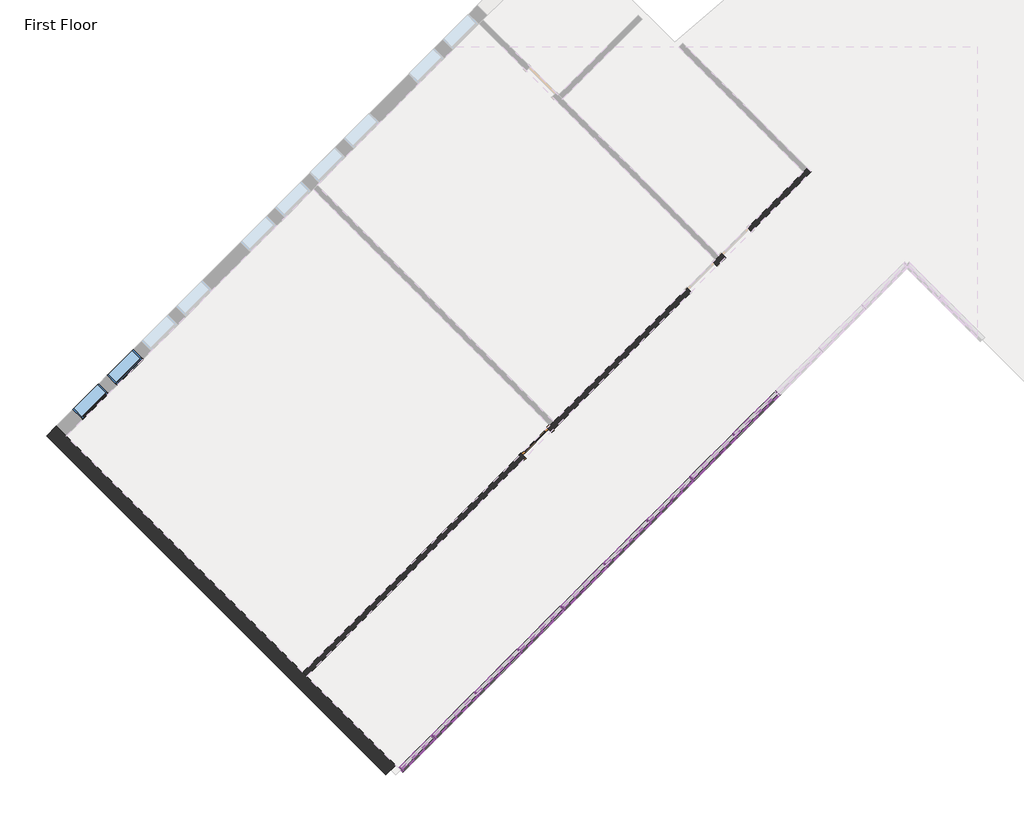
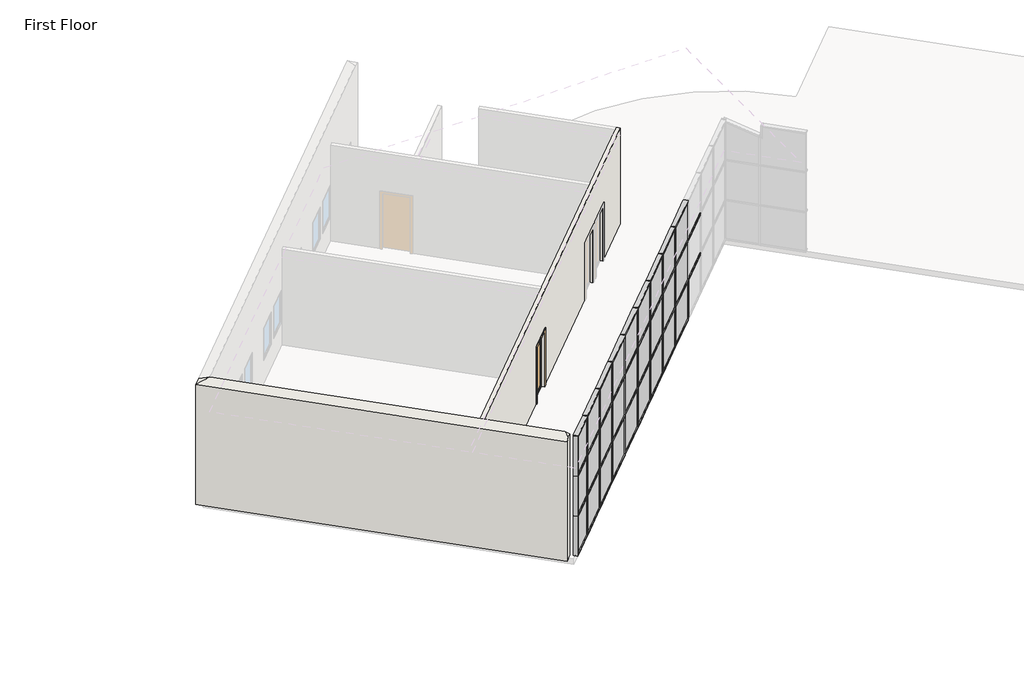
# One storey, part 1 of 4: 66 members, 27 plates, 2 walls, 2 windows, 1 door.
"""IFC4 building model written with IfcOpenShell, lengths in millimetres."""

from ifc_helpers import new_model, si_unit, origin, place, context, project, spatial, faceted_brep, transform, mapped, element, save
from components import m_single_glass_1_0915_x_2134mm_fb3287b7, rectangular_mullion_50_x_150mm_a1635f5b, rectangular_mullion_50_x_150mm_40297ad3, rectangular_mullion_50_x_150mm_f494fff1, rectangular_mullion_50_x_150mm_97ff1a0c, rectangular_mullion_50_x_150mm_5da8f88f, rectangular_mullion_50_x_150mm_6261b450, rectangular_mullion_50_x_150mm_4d330a12, rectangular_mullion_50_x_150mm_c13bad7a, system_panel_glazed_a417ca2b, system_panel_glazed_7c4ff273, system_panel_glazed_0df73d5a, system_panel_glazed_71216330, system_panel_solid_7096e89f, system_panel_solid_df1dc4a9, m_fixed_0915_x_1220mm_bde29121

model = new_model("IFC4")

# Units and contexts
model_context = context("Model", 3, world=origin())
ifc_project = project(units=[si_unit("LENGTHUNIT", "METRE", prefix="MILLI")], contexts=[model_context])

# Site, building, storey
site = spatial("IfcSite", under=ifc_project)
building = spatial("IfcBuilding", under=site)
storey = spatial("IfcBuildingStorey", under=building, Name="First Floor", Elevation=0.0)

# Door
placement = place(None, origin())
m_single_glass_1_0915_x_2134mm_shape = m_single_glass_1_0915_x_2134mm_fb3287b7(model_context)
element("IfcDoor", 1, ObjectType="M_Single-Glass 1 : 0915 x 2134mm", at=placement, inside=storey, context=model_context, shape_type="MappedRepresentation", body=[
    mapped(m_single_glass_1_0915_x_2134mm_shape, transform((-10885.2041795, -2483.8084826, 0.0), x_axis=(0.7071067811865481, 0.7071067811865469, 0.0), y_axis=(-0.7071067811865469, 0.7071067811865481, 0.0), z_axis=(0.0, 0.0, 1.0))),
])

# Members
rectangular_mullion_50_x_150mm_shape = rectangular_mullion_50_x_150mm_a1635f5b(model_context)
element("IfcMember", 2, ObjectType="Rectangular Mullion : 50 x 150mm", at=placement, inside=storey, context=model_context, shape_type="MappedRepresentation", body=[
    mapped(rectangular_mullion_50_x_150mm_shape, transform((-14249.9717978, -10654.0737858, 4571.7250795), x_axis=(0.0, 0.0, 1.0), y_axis=(-0.7071067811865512, 0.7071067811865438, 0.0), z_axis=(-0.7071067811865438, -0.7071067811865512, 0.0))),
])
rectangular_mullion_50_x_150mm_2_shape = rectangular_mullion_50_x_150mm_40297ad3(model_context)
element("IfcMember", 3, ObjectType="Rectangular Mullion : 50 x 150mm", at=placement, inside=storey, context=model_context, shape_type="MappedRepresentation", body=[
    mapped(rectangular_mullion_50_x_150mm_2_shape, transform((-4834.1378995, -1238.2398875, 0.0), x_axis=(-0.7071067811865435, -0.7071067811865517, 0.0), y_axis=(-0.7071067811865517, 0.7071067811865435, 0.0), z_axis=(0.0, 0.0, -1.0))),
])
element("IfcMember", 4, ObjectType="Rectangular Mullion : 50 x 150mm", at=placement, inside=storey, context=model_context, shape_type="MappedRepresentation", body=[
    mapped(rectangular_mullion_50_x_150mm_2_shape, transform((-5911.768634, -2315.870622, 0.0), x_axis=(-0.7071067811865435, -0.7071067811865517, 0.0), y_axis=(-0.7071067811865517, 0.7071067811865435, 0.0), z_axis=(0.0, 0.0, -1.0))),
])
element("IfcMember", 5, ObjectType="Rectangular Mullion : 50 x 150mm", at=placement, inside=storey, context=model_context, shape_type="MappedRepresentation", body=[
    mapped(rectangular_mullion_50_x_150mm_2_shape, transform((-6989.3993686, -3393.5013566, 0.0), x_axis=(-0.7071067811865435, -0.7071067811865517, 0.0), y_axis=(-0.7071067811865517, 0.7071067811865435, 0.0), z_axis=(0.0, 0.0, -1.0))),
])
element("IfcMember", 6, ObjectType="Rectangular Mullion : 50 x 150mm", at=placement, inside=storey, context=model_context, shape_type="MappedRepresentation", body=[
    mapped(rectangular_mullion_50_x_150mm_2_shape, transform((-8067.0301031, -4471.1320911, 0.0), x_axis=(-0.7071067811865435, -0.7071067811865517, 0.0), y_axis=(-0.7071067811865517, 0.7071067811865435, 0.0), z_axis=(0.0, 0.0, -1.0))),
])
element("IfcMember", 7, ObjectType="Rectangular Mullion : 50 x 150mm", at=placement, inside=storey, context=model_context, shape_type="MappedRepresentation", body=[
    mapped(rectangular_mullion_50_x_150mm_2_shape, transform((-9144.6608376, -5548.7628256, 0.0), x_axis=(-0.7071067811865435, -0.7071067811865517, 0.0), y_axis=(-0.7071067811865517, 0.7071067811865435, 0.0), z_axis=(0.0, 0.0, -1.0))),
])
element("IfcMember", 8, ObjectType="Rectangular Mullion : 50 x 150mm", at=placement, inside=storey, context=model_context, shape_type="MappedRepresentation", body=[
    mapped(rectangular_mullion_50_x_150mm_2_shape, transform((-10222.2915721, -6626.3935602, 0.0), x_axis=(-0.7071067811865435, -0.7071067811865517, 0.0), y_axis=(-0.7071067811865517, 0.7071067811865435, 0.0), z_axis=(0.0, 0.0, -1.0))),
])
element("IfcMember", 9, ObjectType="Rectangular Mullion : 50 x 150mm", at=placement, inside=storey, context=model_context, shape_type="MappedRepresentation", body=[
    mapped(rectangular_mullion_50_x_150mm_2_shape, transform((-11299.9223067, -7704.0242947, 0.0), x_axis=(-0.7071067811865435, -0.7071067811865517, 0.0), y_axis=(-0.7071067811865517, 0.7071067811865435, 0.0), z_axis=(0.0, 0.0, -1.0))),
])
element("IfcMember", 10, ObjectType="Rectangular Mullion : 50 x 150mm", at=placement, inside=storey, context=model_context, shape_type="MappedRepresentation", body=[
    mapped(rectangular_mullion_50_x_150mm_2_shape, transform((-12377.5530412, -8781.6550292, 0.0), x_axis=(-0.7071067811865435, -0.7071067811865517, 0.0), y_axis=(-0.7071067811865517, 0.7071067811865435, 0.0), z_axis=(0.0, 0.0, -1.0))),
])
element("IfcMember", 11, ObjectType="Rectangular Mullion : 50 x 150mm", at=placement, inside=storey, context=model_context, shape_type="MappedRepresentation", body=[
    mapped(rectangular_mullion_50_x_150mm_2_shape, transform((-13455.1837757, -9859.2857637, 0.0), x_axis=(-0.7071067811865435, -0.7071067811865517, 0.0), y_axis=(-0.7071067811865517, 0.7071067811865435, 0.0), z_axis=(0.0, 0.0, -1.0))),
])
rectangular_mullion_50_x_150mm_3_shape = rectangular_mullion_50_x_150mm_f494fff1(model_context)
element("IfcMember", 12, ObjectType="Rectangular Mullion : 50 x 150mm", at=placement, inside=storey, context=model_context, shape_type="MappedRepresentation", body=[
    mapped(rectangular_mullion_50_x_150mm_3_shape, transform((-4816.46023, -1220.562218, 1524.0), x_axis=(0.0, 0.0, 1.0), y_axis=(-0.7071067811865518, 0.7071067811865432, 0.0), z_axis=(-0.7071067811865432, -0.7071067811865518, 0.0))),
])
element("IfcMember", 13, ObjectType="Rectangular Mullion : 50 x 150mm", at=placement, inside=storey, context=model_context, shape_type="MappedRepresentation", body=[
    mapped(rectangular_mullion_50_x_150mm_3_shape, transform((-5894.0909645, -2298.1929525, 1524.0), x_axis=(0.0, 0.0, 1.0), y_axis=(-0.7071067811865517, 0.7071067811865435, 0.0), z_axis=(-0.7071067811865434, -0.7071067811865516, 0.0))),
])
element("IfcMember", 14, ObjectType="Rectangular Mullion : 50 x 150mm", at=placement, inside=storey, context=model_context, shape_type="MappedRepresentation", body=[
    mapped(rectangular_mullion_50_x_150mm_3_shape, transform((-6971.721699, -3375.823687, 1524.0), x_axis=(0.0, 0.0, 1.0), y_axis=(-0.7071067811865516, 0.7071067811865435, 0.0), z_axis=(-0.7071067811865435, -0.7071067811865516, 0.0))),
])
element("IfcMember", 15, ObjectType="Rectangular Mullion : 50 x 150mm", at=placement, inside=storey, context=model_context, shape_type="MappedRepresentation", body=[
    mapped(rectangular_mullion_50_x_150mm_3_shape, transform((-8049.3524335, -4453.4544216, 1524.0), x_axis=(0.0, 0.0, 1.0), y_axis=(-0.7071067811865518, 0.7071067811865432, 0.0), z_axis=(-0.7071067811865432, -0.7071067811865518, 0.0))),
])
element("IfcMember", 16, ObjectType="Rectangular Mullion : 50 x 150mm", at=placement, inside=storey, context=model_context, shape_type="MappedRepresentation", body=[
    mapped(rectangular_mullion_50_x_150mm_3_shape, transform((-9126.9831681, -5531.0851561, 1524.0), x_axis=(0.0, 0.0, 1.0), y_axis=(-0.7071067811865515, 0.7071067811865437, 0.0), z_axis=(-0.7071067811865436, -0.7071067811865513, 0.0))),
])
element("IfcMember", 17, ObjectType="Rectangular Mullion : 50 x 150mm", at=placement, inside=storey, context=model_context, shape_type="MappedRepresentation", body=[
    mapped(rectangular_mullion_50_x_150mm_3_shape, transform((-10204.6139026, -6608.7158906, 1524.0), x_axis=(0.0, 0.0, 1.0), y_axis=(-0.7071067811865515, 0.7071067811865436, 0.0), z_axis=(-0.7071067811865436, -0.7071067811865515, 0.0))),
])
element("IfcMember", 18, ObjectType="Rectangular Mullion : 50 x 150mm", at=placement, inside=storey, context=model_context, shape_type="MappedRepresentation", body=[
    mapped(rectangular_mullion_50_x_150mm_3_shape, transform((-11282.2446371, -7686.3466252, 1524.0), x_axis=(0.0, 0.0, 1.0), y_axis=(-0.7071067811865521, 0.7071067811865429, 0.0), z_axis=(-0.7071067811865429, -0.7071067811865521, 0.0))),
])
element("IfcMember", 19, ObjectType="Rectangular Mullion : 50 x 150mm", at=placement, inside=storey, context=model_context, shape_type="MappedRepresentation", body=[
    mapped(rectangular_mullion_50_x_150mm_3_shape, transform((-12359.8753717, -8763.9773597, 1524.0), x_axis=(0.0, 0.0, 1.0), y_axis=(-0.7071067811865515, 0.7071067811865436, 0.0), z_axis=(-0.7071067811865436, -0.7071067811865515, 0.0))),
])
element("IfcMember", 20, ObjectType="Rectangular Mullion : 50 x 150mm", at=placement, inside=storey, context=model_context, shape_type="MappedRepresentation", body=[
    mapped(rectangular_mullion_50_x_150mm_3_shape, transform((-13437.5061062, -9841.6080942, 1524.0), x_axis=(0.0, 0.0, 1.0), y_axis=(-0.7071067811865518, 0.7071067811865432, 0.0), z_axis=(-0.7071067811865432, -0.7071067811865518, 0.0))),
])
element("IfcMember", 21, ObjectType="Rectangular Mullion : 50 x 150mm", at=placement, inside=storey, context=model_context, shape_type="MappedRepresentation", body=[
    mapped(rectangular_mullion_50_x_150mm_3_shape, transform((-4816.46023, -1220.562218, 3048.0), x_axis=(0.0, 0.0, 1.0), y_axis=(-0.7071067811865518, 0.7071067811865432, 0.0), z_axis=(-0.7071067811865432, -0.7071067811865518, 0.0))),
])
element("IfcMember", 22, ObjectType="Rectangular Mullion : 50 x 150mm", at=placement, inside=storey, context=model_context, shape_type="MappedRepresentation", body=[
    mapped(rectangular_mullion_50_x_150mm_3_shape, transform((-5894.0909645, -2298.1929525, 3048.0), x_axis=(0.0, 0.0, 1.0), y_axis=(-0.7071067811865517, 0.7071067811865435, 0.0), z_axis=(-0.7071067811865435, -0.7071067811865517, 0.0))),
])
element("IfcMember", 23, ObjectType="Rectangular Mullion : 50 x 150mm", at=placement, inside=storey, context=model_context, shape_type="MappedRepresentation", body=[
    mapped(rectangular_mullion_50_x_150mm_3_shape, transform((-6971.721699, -3375.823687, 3048.0), x_axis=(0.0, 0.0, 1.0), y_axis=(-0.7071067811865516, 0.7071067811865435, 0.0), z_axis=(-0.7071067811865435, -0.7071067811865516, 0.0))),
])
element("IfcMember", 24, ObjectType="Rectangular Mullion : 50 x 150mm", at=placement, inside=storey, context=model_context, shape_type="MappedRepresentation", body=[
    mapped(rectangular_mullion_50_x_150mm_3_shape, transform((-8049.3524335, -4453.4544216, 3048.0), x_axis=(0.0, 0.0, 1.0), y_axis=(-0.7071067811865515, 0.7071067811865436, 0.0), z_axis=(-0.7071067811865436, -0.7071067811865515, 0.0))),
])
element("IfcMember", 25, ObjectType="Rectangular Mullion : 50 x 150mm", at=placement, inside=storey, context=model_context, shape_type="MappedRepresentation", body=[
    mapped(rectangular_mullion_50_x_150mm_3_shape, transform((-9126.9831681, -5531.0851561, 3048.0), x_axis=(0.0, 0.0, 1.0), y_axis=(-0.7071067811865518, 0.7071067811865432, 0.0), z_axis=(-0.7071067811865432, -0.7071067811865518, 0.0))),
])
element("IfcMember", 26, ObjectType="Rectangular Mullion : 50 x 150mm", at=placement, inside=storey, context=model_context, shape_type="MappedRepresentation", body=[
    mapped(rectangular_mullion_50_x_150mm_3_shape, transform((-10204.6139026, -6608.7158906, 3048.0), x_axis=(0.0, 0.0, 1.0), y_axis=(-0.7071067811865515, 0.7071067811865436, 0.0), z_axis=(-0.7071067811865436, -0.7071067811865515, 0.0))),
])
element("IfcMember", 27, ObjectType="Rectangular Mullion : 50 x 150mm", at=placement, inside=storey, context=model_context, shape_type="MappedRepresentation", body=[
    mapped(rectangular_mullion_50_x_150mm_3_shape, transform((-11282.2446371, -7686.3466252, 3048.0), x_axis=(0.0, 0.0, 1.0), y_axis=(-0.7071067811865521, 0.7071067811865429, 0.0), z_axis=(-0.7071067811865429, -0.7071067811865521, 0.0))),
])
element("IfcMember", 28, ObjectType="Rectangular Mullion : 50 x 150mm", at=placement, inside=storey, context=model_context, shape_type="MappedRepresentation", body=[
    mapped(rectangular_mullion_50_x_150mm_3_shape, transform((-12359.8753717, -8763.9773597, 3048.0), x_axis=(0.0, 0.0, 1.0), y_axis=(-0.7071067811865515, 0.7071067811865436, 0.0), z_axis=(-0.7071067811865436, -0.7071067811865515, 0.0))),
])
element("IfcMember", 29, ObjectType="Rectangular Mullion : 50 x 150mm", at=placement, inside=storey, context=model_context, shape_type="MappedRepresentation", body=[
    mapped(rectangular_mullion_50_x_150mm_3_shape, transform((-13437.5061062, -9841.6080942, 3048.0), x_axis=(0.0, 0.0, 1.0), y_axis=(-0.7071067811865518, 0.7071067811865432, 0.0), z_axis=(-0.7071067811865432, -0.7071067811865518, 0.0))),
])
rectangular_mullion_50_x_150mm_4_shape = rectangular_mullion_50_x_150mm_97ff1a0c(model_context)
element("IfcMember", 30, ObjectType="Rectangular Mullion : 50 x 150mm", at=placement, inside=storey, context=model_context, shape_type="MappedRepresentation", body=[
    mapped(rectangular_mullion_50_x_150mm_4_shape, transform((-14249.9717978, -10654.0737858, 1524.0), x_axis=(0.0, 0.0, 1.0), y_axis=(-0.7071067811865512, 0.7071067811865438, 0.0), z_axis=(-0.7071067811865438, -0.7071067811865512, 0.0))),
])
element("IfcMember", 31, ObjectType="Rectangular Mullion : 50 x 150mm", at=placement, inside=storey, context=model_context, shape_type="MappedRepresentation", body=[
    mapped(rectangular_mullion_50_x_150mm_4_shape, transform((-14249.9717978, -10654.0737858, 3048.0), x_axis=(0.0, 0.0, 1.0), y_axis=(-0.7071067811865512, 0.7071067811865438, 0.0), z_axis=(-0.7071067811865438, -0.7071067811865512, 0.0))),
])
rectangular_mullion_50_x_150mm_5_shape = rectangular_mullion_50_x_150mm_5da8f88f(model_context)
element("IfcMember", 32, ObjectType="Rectangular Mullion : 50 x 150mm", at=placement, inside=storey, context=model_context, shape_type="MappedRepresentation", body=[
    mapped(rectangular_mullion_50_x_150mm_5_shape, transform((-4851.815569, -1255.917557, 0.0), x_axis=(0.0, 0.0, -1.0), y_axis=(-0.7071067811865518, 0.7071067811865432, 0.0), z_axis=(0.7071067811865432, 0.7071067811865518, 0.0))),
])
element("IfcMember", 33, ObjectType="Rectangular Mullion : 50 x 150mm", at=placement, inside=storey, context=model_context, shape_type="MappedRepresentation", body=[
    mapped(rectangular_mullion_50_x_150mm_5_shape, transform((-5929.4463036, -2333.5482916, 0.0), x_axis=(0.0, 0.0, -1.0), y_axis=(-0.7071067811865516, 0.7071067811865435, 0.0), z_axis=(0.7071067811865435, 0.7071067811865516, 0.0))),
])
element("IfcMember", 34, ObjectType="Rectangular Mullion : 50 x 150mm", at=placement, inside=storey, context=model_context, shape_type="MappedRepresentation", body=[
    mapped(rectangular_mullion_50_x_150mm_5_shape, transform((-7007.0770381, -3411.1790261, 0.0), x_axis=(0.0, 0.0, -1.0), y_axis=(-0.7071067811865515, 0.7071067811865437, 0.0), z_axis=(0.7071067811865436, 0.7071067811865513, 0.0))),
])
element("IfcMember", 35, ObjectType="Rectangular Mullion : 50 x 150mm", at=placement, inside=storey, context=model_context, shape_type="MappedRepresentation", body=[
    mapped(rectangular_mullion_50_x_150mm_5_shape, transform((-8084.7077726, -4488.8097606, 0.0), x_axis=(0.0, 0.0, -1.0), y_axis=(-0.7071067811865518, 0.7071067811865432, 0.0), z_axis=(0.7071067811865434, 0.7071067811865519, 0.0))),
])
element("IfcMember", 36, ObjectType="Rectangular Mullion : 50 x 150mm", at=placement, inside=storey, context=model_context, shape_type="MappedRepresentation", body=[
    mapped(rectangular_mullion_50_x_150mm_5_shape, transform((-9162.3385071, -5566.4404952, 0.0), x_axis=(0.0, 0.0, -1.0), y_axis=(-0.7071067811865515, 0.7071067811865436, 0.0), z_axis=(0.7071067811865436, 0.7071067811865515, 0.0))),
])
element("IfcMember", 37, ObjectType="Rectangular Mullion : 50 x 150mm", at=placement, inside=storey, context=model_context, shape_type="MappedRepresentation", body=[
    mapped(rectangular_mullion_50_x_150mm_5_shape, transform((-10239.9692417, -6644.0712297, 0.0), x_axis=(0.0, 0.0, -1.0), y_axis=(-0.7071067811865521, 0.7071067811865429, 0.0), z_axis=(0.7071067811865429, 0.7071067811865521, 0.0))),
])
element("IfcMember", 38, ObjectType="Rectangular Mullion : 50 x 150mm", at=placement, inside=storey, context=model_context, shape_type="MappedRepresentation", body=[
    mapped(rectangular_mullion_50_x_150mm_5_shape, transform((-11317.5999762, -7721.7019642, 0.0), x_axis=(0.0, 0.0, -1.0), y_axis=(-0.7071067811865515, 0.7071067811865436, 0.0), z_axis=(0.7071067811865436, 0.7071067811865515, 0.0))),
])
element("IfcMember", 39, ObjectType="Rectangular Mullion : 50 x 150mm", at=placement, inside=storey, context=model_context, shape_type="MappedRepresentation", body=[
    mapped(rectangular_mullion_50_x_150mm_5_shape, transform((-12395.2307107, -8799.3326987, 0.0), x_axis=(0.0, 0.0, -1.0), y_axis=(-0.7071067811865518, 0.7071067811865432, 0.0), z_axis=(0.7071067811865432, 0.7071067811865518, 0.0))),
])
element("IfcMember", 40, ObjectType="Rectangular Mullion : 50 x 150mm", at=placement, inside=storey, context=model_context, shape_type="MappedRepresentation", body=[
    mapped(rectangular_mullion_50_x_150mm_shape, transform((-13472.8614453, -9876.9634333, 0.0), x_axis=(0.0, 0.0, -1.0), y_axis=(-0.7071067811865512, 0.7071067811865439, 0.0), z_axis=(0.7071067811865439, 0.7071067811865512, 0.0))),
])
element("IfcMember", 41, ObjectType="Rectangular Mullion : 50 x 150mm", at=placement, inside=storey, context=model_context, shape_type="MappedRepresentation", body=[
    mapped(rectangular_mullion_50_x_150mm_5_shape, transform((-5894.0909645, -2298.1929525, 4571.7250795), x_axis=(0.0, 0.0, 1.0), y_axis=(-0.7071067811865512, 0.7071067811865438, 0.0), z_axis=(-0.7071067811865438, -0.7071067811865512, 0.0))),
])
element("IfcMember", 42, ObjectType="Rectangular Mullion : 50 x 150mm", at=placement, inside=storey, context=model_context, shape_type="MappedRepresentation", body=[
    mapped(rectangular_mullion_50_x_150mm_5_shape, transform((-6971.721699, -3375.823687, 4571.7250795), x_axis=(0.0, 0.0, 1.0), y_axis=(-0.707106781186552, 0.7071067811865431, 0.0), z_axis=(-0.707106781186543, -0.7071067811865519, 0.0))),
])
element("IfcMember", 43, ObjectType="Rectangular Mullion : 50 x 150mm", at=placement, inside=storey, context=model_context, shape_type="MappedRepresentation", body=[
    mapped(rectangular_mullion_50_x_150mm_5_shape, transform((-8049.3524335, -4453.4544216, 4571.7250795), x_axis=(0.0, 0.0, 1.0), y_axis=(-0.7071067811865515, 0.7071067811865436, 0.0), z_axis=(-0.7071067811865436, -0.7071067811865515, 0.0))),
])
element("IfcMember", 44, ObjectType="Rectangular Mullion : 50 x 150mm", at=placement, inside=storey, context=model_context, shape_type="MappedRepresentation", body=[
    mapped(rectangular_mullion_50_x_150mm_5_shape, transform((-9126.9831681, -5531.0851561, 4571.7250795), x_axis=(0.0, 0.0, 1.0), y_axis=(-0.7071067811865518, 0.7071067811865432, 0.0), z_axis=(-0.7071067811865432, -0.7071067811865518, 0.0))),
])
element("IfcMember", 45, ObjectType="Rectangular Mullion : 50 x 150mm", at=placement, inside=storey, context=model_context, shape_type="MappedRepresentation", body=[
    mapped(rectangular_mullion_50_x_150mm_5_shape, transform((-10204.6139026, -6608.7158906, 4571.7250795), x_axis=(0.0, 0.0, 1.0), y_axis=(-0.7071067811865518, 0.7071067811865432, 0.0), z_axis=(-0.7071067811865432, -0.7071067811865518, 0.0))),
])
element("IfcMember", 46, ObjectType="Rectangular Mullion : 50 x 150mm", at=placement, inside=storey, context=model_context, shape_type="MappedRepresentation", body=[
    mapped(rectangular_mullion_50_x_150mm_5_shape, transform((-11282.2446371, -7686.3466252, 4571.7250795), x_axis=(0.0, 0.0, 1.0), y_axis=(-0.7071067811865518, 0.7071067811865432, 0.0), z_axis=(-0.7071067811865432, -0.7071067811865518, 0.0))),
])
element("IfcMember", 47, ObjectType="Rectangular Mullion : 50 x 150mm", at=placement, inside=storey, context=model_context, shape_type="MappedRepresentation", body=[
    mapped(rectangular_mullion_50_x_150mm_5_shape, transform((-12359.8753717, -8763.9773597, 4571.7250795), x_axis=(0.0, 0.0, 1.0), y_axis=(-0.7071067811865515, 0.7071067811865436, 0.0), z_axis=(-0.7071067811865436, -0.7071067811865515, 0.0))),
])
element("IfcMember", 48, ObjectType="Rectangular Mullion : 50 x 150mm", at=placement, inside=storey, context=model_context, shape_type="MappedRepresentation", body=[
    mapped(rectangular_mullion_50_x_150mm_5_shape, transform((-13437.5061062, -9841.6080942, 4571.7250795), x_axis=(0.0, 0.0, 1.0), y_axis=(-0.7071067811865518, 0.7071067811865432, 0.0), z_axis=(-0.7071067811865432, -0.7071067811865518, 0.0))),
])
element("IfcMember", 49, ObjectType="Rectangular Mullion : 50 x 150mm", at=placement, inside=storey, context=model_context, shape_type="MappedRepresentation", body=[
    mapped(rectangular_mullion_50_x_150mm_2_shape, transform((-5911.768634, -2315.870622, 1524.0), x_axis=(-0.7071067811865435, -0.7071067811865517, 0.0), y_axis=(-0.7071067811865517, 0.7071067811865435, 0.0), z_axis=(0.0, 0.0, -1.0))),
])
element("IfcMember", 50, ObjectType="Rectangular Mullion : 50 x 150mm", at=placement, inside=storey, context=model_context, shape_type="MappedRepresentation", body=[
    mapped(rectangular_mullion_50_x_150mm_2_shape, transform((-6989.3993686, -3393.5013566, 1524.0), x_axis=(-0.7071067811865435, -0.7071067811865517, 0.0), y_axis=(-0.7071067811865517, 0.7071067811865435, 0.0), z_axis=(0.0, 0.0, -1.0))),
])
element("IfcMember", 51, ObjectType="Rectangular Mullion : 50 x 150mm", at=placement, inside=storey, context=model_context, shape_type="MappedRepresentation", body=[
    mapped(rectangular_mullion_50_x_150mm_2_shape, transform((-8067.0301031, -4471.1320911, 1524.0), x_axis=(-0.7071067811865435, -0.7071067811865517, 0.0), y_axis=(-0.7071067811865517, 0.7071067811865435, 0.0), z_axis=(0.0, 0.0, -1.0))),
])
element("IfcMember", 52, ObjectType="Rectangular Mullion : 50 x 150mm", at=placement, inside=storey, context=model_context, shape_type="MappedRepresentation", body=[
    mapped(rectangular_mullion_50_x_150mm_2_shape, transform((-9144.6608376, -5548.7628256, 1524.0), x_axis=(-0.7071067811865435, -0.7071067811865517, 0.0), y_axis=(-0.7071067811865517, 0.7071067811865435, 0.0), z_axis=(0.0, 0.0, -1.0))),
])
element("IfcMember", 53, ObjectType="Rectangular Mullion : 50 x 150mm", at=placement, inside=storey, context=model_context, shape_type="MappedRepresentation", body=[
    mapped(rectangular_mullion_50_x_150mm_2_shape, transform((-10222.2915721, -6626.3935602, 1524.0), x_axis=(-0.7071067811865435, -0.7071067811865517, 0.0), y_axis=(-0.7071067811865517, 0.7071067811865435, 0.0), z_axis=(0.0, 0.0, -1.0))),
])
element("IfcMember", 54, ObjectType="Rectangular Mullion : 50 x 150mm", at=placement, inside=storey, context=model_context, shape_type="MappedRepresentation", body=[
    mapped(rectangular_mullion_50_x_150mm_2_shape, transform((-11299.9223067, -7704.0242947, 1524.0), x_axis=(-0.7071067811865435, -0.7071067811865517, 0.0), y_axis=(-0.7071067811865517, 0.7071067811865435, 0.0), z_axis=(0.0, 0.0, -1.0))),
])
element("IfcMember", 55, ObjectType="Rectangular Mullion : 50 x 150mm", at=placement, inside=storey, context=model_context, shape_type="MappedRepresentation", body=[
    mapped(rectangular_mullion_50_x_150mm_2_shape, transform((-12377.5530412, -8781.6550292, 1524.0), x_axis=(-0.7071067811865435, -0.7071067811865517, 0.0), y_axis=(-0.7071067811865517, 0.7071067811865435, 0.0), z_axis=(0.0, 0.0, -1.0))),
])
element("IfcMember", 56, ObjectType="Rectangular Mullion : 50 x 150mm", at=placement, inside=storey, context=model_context, shape_type="MappedRepresentation", body=[
    mapped(rectangular_mullion_50_x_150mm_2_shape, transform((-13455.1837757, -9859.2857637, 1524.0), x_axis=(-0.7071067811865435, -0.7071067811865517, 0.0), y_axis=(-0.7071067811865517, 0.7071067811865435, 0.0), z_axis=(0.0, 0.0, -1.0))),
])
rectangular_mullion_50_x_150mm_6_shape = rectangular_mullion_50_x_150mm_6261b450(model_context)
element("IfcMember", 57, ObjectType="Rectangular Mullion : 50 x 150mm", at=placement, inside=storey, context=model_context, shape_type="MappedRepresentation", body=[
    mapped(rectangular_mullion_50_x_150mm_6_shape, transform((-5911.768634, -2315.870622, 3048.0), x_axis=(-0.7071067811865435, -0.7071067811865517, 0.0), y_axis=(-0.7071067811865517, 0.7071067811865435, 0.0), z_axis=(0.0, 0.0, -1.0))),
])
element("IfcMember", 58, ObjectType="Rectangular Mullion : 50 x 150mm", at=placement, inside=storey, context=model_context, shape_type="MappedRepresentation", body=[
    mapped(rectangular_mullion_50_x_150mm_6_shape, transform((-6989.3993686, -3393.5013566, 3048.0), x_axis=(-0.7071067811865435, -0.7071067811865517, 0.0), y_axis=(-0.7071067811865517, 0.7071067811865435, 0.0), z_axis=(0.0, 0.0, -1.0))),
])
element("IfcMember", 59, ObjectType="Rectangular Mullion : 50 x 150mm", at=placement, inside=storey, context=model_context, shape_type="MappedRepresentation", body=[
    mapped(rectangular_mullion_50_x_150mm_6_shape, transform((-8067.0301031, -4471.1320911, 3048.0), x_axis=(-0.7071067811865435, -0.7071067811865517, 0.0), y_axis=(-0.7071067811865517, 0.7071067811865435, 0.0), z_axis=(0.0, 0.0, -1.0))),
])
element("IfcMember", 60, ObjectType="Rectangular Mullion : 50 x 150mm", at=placement, inside=storey, context=model_context, shape_type="MappedRepresentation", body=[
    mapped(rectangular_mullion_50_x_150mm_6_shape, transform((-9144.6608376, -5548.7628256, 3048.0), x_axis=(-0.7071067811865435, -0.7071067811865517, 0.0), y_axis=(-0.7071067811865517, 0.7071067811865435, 0.0), z_axis=(0.0, 0.0, -1.0))),
])
element("IfcMember", 61, ObjectType="Rectangular Mullion : 50 x 150mm", at=placement, inside=storey, context=model_context, shape_type="MappedRepresentation", body=[
    mapped(rectangular_mullion_50_x_150mm_6_shape, transform((-10222.2915721, -6626.3935602, 3048.0), x_axis=(-0.7071067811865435, -0.7071067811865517, 0.0), y_axis=(-0.7071067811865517, 0.7071067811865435, 0.0), z_axis=(0.0, 0.0, -1.0))),
])
element("IfcMember", 62, ObjectType="Rectangular Mullion : 50 x 150mm", at=placement, inside=storey, context=model_context, shape_type="MappedRepresentation", body=[
    mapped(rectangular_mullion_50_x_150mm_6_shape, transform((-11299.9223067, -7704.0242947, 3048.0), x_axis=(-0.7071067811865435, -0.7071067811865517, 0.0), y_axis=(-0.7071067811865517, 0.7071067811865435, 0.0), z_axis=(0.0, 0.0, -1.0))),
])
element("IfcMember", 63, ObjectType="Rectangular Mullion : 50 x 150mm", at=placement, inside=storey, context=model_context, shape_type="MappedRepresentation", body=[
    mapped(rectangular_mullion_50_x_150mm_6_shape, transform((-12377.5530412, -8781.6550292, 3048.0), x_axis=(-0.7071067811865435, -0.7071067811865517, 0.0), y_axis=(-0.7071067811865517, 0.7071067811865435, 0.0), z_axis=(0.0, 0.0, -1.0))),
])
element("IfcMember", 64, ObjectType="Rectangular Mullion : 50 x 150mm", at=placement, inside=storey, context=model_context, shape_type="MappedRepresentation", body=[
    mapped(rectangular_mullion_50_x_150mm_6_shape, transform((-13455.1837757, -9859.2857637, 3048.0), x_axis=(-0.7071067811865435, -0.7071067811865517, 0.0), y_axis=(-0.7071067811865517, 0.7071067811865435, 0.0), z_axis=(0.0, 0.0, -1.0))),
])
rectangular_mullion_50_x_150mm_7_shape = rectangular_mullion_50_x_150mm_4d330a12(model_context)
element("IfcMember", 65, ObjectType="Rectangular Mullion : 50 x 150mm", at=placement, inside=storey, context=model_context, shape_type="MappedRepresentation", body=[
    mapped(rectangular_mullion_50_x_150mm_7_shape, transform((-14285.3271368, -10689.4291248, 0.0), x_axis=(-0.7071067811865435, -0.7071067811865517, 0.0), y_axis=(-0.7071067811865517, 0.7071067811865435, 0.0), z_axis=(0.0, 0.0, -1.0))),
])
element("IfcMember", 66, ObjectType="Rectangular Mullion : 50 x 150mm", at=placement, inside=storey, context=model_context, shape_type="MappedRepresentation", body=[
    mapped(rectangular_mullion_50_x_150mm_7_shape, transform((-14285.3271368, -10689.4291248, 1524.0), x_axis=(-0.7071067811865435, -0.7071067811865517, 0.0), y_axis=(-0.7071067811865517, 0.7071067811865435, 0.0), z_axis=(0.0, 0.0, -1.0))),
])
rectangular_mullion_50_x_150mm_8_shape = rectangular_mullion_50_x_150mm_c13bad7a(model_context)
element("IfcMember", 67, ObjectType="Rectangular Mullion : 50 x 150mm", at=placement, inside=storey, context=model_context, shape_type="MappedRepresentation", body=[
    mapped(rectangular_mullion_50_x_150mm_8_shape, transform((-14285.3271368, -10689.4291248, 3048.0), x_axis=(-0.7071067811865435, -0.7071067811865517, 0.0), y_axis=(-0.7071067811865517, 0.7071067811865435, 0.0), z_axis=(0.0, 0.0, -1.0))),
])

# Plates
system_panel_glazed_shape = system_panel_glazed_a417ca2b(model_context)
element("IfcPlate", 68, ObjectType="System Panel : Glazed", at=placement, inside=storey, context=model_context, shape_type="MappedRepresentation", body=[
    mapped(system_panel_glazed_shape, transform((-5372.9532668, -1777.0552548, 50.0), x_axis=(-0.7071067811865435, -0.7071067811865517, 0.0), y_axis=(0.7071067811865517, -0.7071067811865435, 0.0), z_axis=(0.0, 0.0, 1.0))),
])
element("IfcPlate", 69, ObjectType="System Panel : Glazed", at=placement, inside=storey, context=model_context, shape_type="MappedRepresentation", body=[
    mapped(system_panel_glazed_shape, transform((-6450.5840013, -2854.6859893, 50.0), x_axis=(-0.7071067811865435, -0.7071067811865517, 0.0), y_axis=(0.7071067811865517, -0.7071067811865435, 0.0), z_axis=(0.0, 0.0, 1.0))),
])
element("IfcPlate", 70, ObjectType="System Panel : Glazed", at=placement, inside=storey, context=model_context, shape_type="MappedRepresentation", body=[
    mapped(system_panel_glazed_shape, transform((-7528.2147358, -3932.3167238, 50.0), x_axis=(-0.7071067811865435, -0.7071067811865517, 0.0), y_axis=(0.7071067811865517, -0.7071067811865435, 0.0), z_axis=(0.0, 0.0, 1.0))),
])
element("IfcPlate", 71, ObjectType="System Panel : Glazed", at=placement, inside=storey, context=model_context, shape_type="MappedRepresentation", body=[
    mapped(system_panel_glazed_shape, transform((-8605.8454703, -5009.9474584, 50.0), x_axis=(-0.7071067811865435, -0.7071067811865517, 0.0), y_axis=(0.7071067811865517, -0.7071067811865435, 0.0), z_axis=(0.0, 0.0, 1.0))),
])
element("IfcPlate", 72, ObjectType="System Panel : Glazed", at=placement, inside=storey, context=model_context, shape_type="MappedRepresentation", body=[
    mapped(system_panel_glazed_shape, transform((-9683.4762049, -6087.5781929, 50.0), x_axis=(-0.7071067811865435, -0.7071067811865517, 0.0), y_axis=(0.7071067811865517, -0.7071067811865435, 0.0), z_axis=(0.0, 0.0, 1.0))),
])
element("IfcPlate", 73, ObjectType="System Panel : Glazed", at=placement, inside=storey, context=model_context, shape_type="MappedRepresentation", body=[
    mapped(system_panel_glazed_shape, transform((-10761.1069394, -7165.2089274, 50.0), x_axis=(-0.7071067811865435, -0.7071067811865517, 0.0), y_axis=(0.7071067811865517, -0.7071067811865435, 0.0), z_axis=(0.0, 0.0, 1.0))),
])
element("IfcPlate", 74, ObjectType="System Panel : Glazed", at=placement, inside=storey, context=model_context, shape_type="MappedRepresentation", body=[
    mapped(system_panel_glazed_shape, transform((-11838.7376739, -8242.8396619, 50.0), x_axis=(-0.7071067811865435, -0.7071067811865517, 0.0), y_axis=(0.7071067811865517, -0.7071067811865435, 0.0), z_axis=(0.0, 0.0, 1.0))),
])
element("IfcPlate", 75, ObjectType="System Panel : Glazed", at=placement, inside=storey, context=model_context, shape_type="MappedRepresentation", body=[
    mapped(system_panel_glazed_shape, transform((-12916.3684085, -9320.4703965, 50.0), x_axis=(-0.7071067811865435, -0.7071067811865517, 0.0), y_axis=(0.7071067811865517, -0.7071067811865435, 0.0), z_axis=(0.0, 0.0, 1.0))),
])
system_panel_glazed_2_shape = system_panel_glazed_7c4ff273(model_context)
element("IfcPlate", 76, ObjectType="System Panel : Glazed", at=placement, inside=storey, context=model_context, shape_type="MappedRepresentation", body=[
    mapped(system_panel_glazed_2_shape, transform((-5372.9532668, -1777.0552548, 1549.0), x_axis=(-0.7071067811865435, -0.7071067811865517, 0.0), y_axis=(0.7071067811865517, -0.7071067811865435, 0.0), z_axis=(0.0, 0.0, 1.0))),
])
element("IfcPlate", 77, ObjectType="System Panel : Glazed", at=placement, inside=storey, context=model_context, shape_type="MappedRepresentation", body=[
    mapped(system_panel_glazed_2_shape, transform((-6450.5840013, -2854.6859893, 1549.0), x_axis=(-0.7071067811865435, -0.7071067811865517, 0.0), y_axis=(0.7071067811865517, -0.7071067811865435, 0.0), z_axis=(0.0, 0.0, 1.0))),
])
element("IfcPlate", 78, ObjectType="System Panel : Glazed", at=placement, inside=storey, context=model_context, shape_type="MappedRepresentation", body=[
    mapped(system_panel_glazed_2_shape, transform((-7528.2147358, -3932.3167238, 1549.0), x_axis=(-0.7071067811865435, -0.7071067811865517, 0.0), y_axis=(0.7071067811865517, -0.7071067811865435, 0.0), z_axis=(0.0, 0.0, 1.0))),
])
element("IfcPlate", 79, ObjectType="System Panel : Glazed", at=placement, inside=storey, context=model_context, shape_type="MappedRepresentation", body=[
    mapped(system_panel_glazed_2_shape, transform((-8605.8454703, -5009.9474584, 1549.0), x_axis=(-0.7071067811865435, -0.7071067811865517, 0.0), y_axis=(0.7071067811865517, -0.7071067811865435, 0.0), z_axis=(0.0, 0.0, 1.0))),
])
element("IfcPlate", 80, ObjectType="System Panel : Glazed", at=placement, inside=storey, context=model_context, shape_type="MappedRepresentation", body=[
    mapped(system_panel_glazed_2_shape, transform((-9683.4762049, -6087.5781929, 1549.0), x_axis=(-0.7071067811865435, -0.7071067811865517, 0.0), y_axis=(0.7071067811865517, -0.7071067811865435, 0.0), z_axis=(0.0, 0.0, 1.0))),
])
element("IfcPlate", 81, ObjectType="System Panel : Glazed", at=placement, inside=storey, context=model_context, shape_type="MappedRepresentation", body=[
    mapped(system_panel_glazed_2_shape, transform((-10761.1069394, -7165.2089274, 1549.0), x_axis=(-0.7071067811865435, -0.7071067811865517, 0.0), y_axis=(0.7071067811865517, -0.7071067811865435, 0.0), z_axis=(0.0, 0.0, 1.0))),
])
element("IfcPlate", 82, ObjectType="System Panel : Glazed", at=placement, inside=storey, context=model_context, shape_type="MappedRepresentation", body=[
    mapped(system_panel_glazed_2_shape, transform((-11838.7376739, -8242.8396619, 1549.0), x_axis=(-0.7071067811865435, -0.7071067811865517, 0.0), y_axis=(0.7071067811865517, -0.7071067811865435, 0.0), z_axis=(0.0, 0.0, 1.0))),
])
element("IfcPlate", 83, ObjectType="System Panel : Glazed", at=placement, inside=storey, context=model_context, shape_type="MappedRepresentation", body=[
    mapped(system_panel_glazed_2_shape, transform((-12916.3684085, -9320.4703965, 1549.0), x_axis=(-0.7071067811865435, -0.7071067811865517, 0.0), y_axis=(0.7071067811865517, -0.7071067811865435, 0.0), z_axis=(0.0, 0.0, 1.0))),
])
system_panel_glazed_3_shape = system_panel_glazed_0df73d5a(model_context)
element("IfcPlate", 84, ObjectType="System Panel : Glazed", at=placement, inside=storey, context=model_context, shape_type="MappedRepresentation", body=[
    mapped(system_panel_glazed_3_shape, transform((-13861.4166215, -10265.5186095, 50.0), x_axis=(-0.7071067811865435, -0.7071067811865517, 0.0), y_axis=(0.7071067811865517, -0.7071067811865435, 0.0), z_axis=(0.0, 0.0, 1.0))),
])
system_panel_glazed_4_shape = system_panel_glazed_71216330(model_context)
element("IfcPlate", 85, ObjectType="System Panel : Glazed", at=placement, inside=storey, context=model_context, shape_type="MappedRepresentation", body=[
    mapped(system_panel_glazed_4_shape, transform((-13861.4166215, -10265.5186095, 1549.0), x_axis=(-0.7071067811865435, -0.7071067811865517, 0.0), y_axis=(0.7071067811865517, -0.7071067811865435, 0.0), z_axis=(0.0, 0.0, 1.0))),
])
system_panel_solid_shape = system_panel_solid_7096e89f(model_context)
element("IfcPlate", 86, ObjectType="System Panel : Solid", at=placement, inside=storey, context=model_context, shape_type="MappedRepresentation", body=[
    mapped(system_panel_solid_shape, transform((-5372.9532668, -1777.0552548, 3073.0), x_axis=(-0.7071067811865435, -0.7071067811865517, 0.0), y_axis=(0.7071067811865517, -0.7071067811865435, 0.0), z_axis=(0.0, 0.0, 1.0))),
])
element("IfcPlate", 87, ObjectType="System Panel : Solid", at=placement, inside=storey, context=model_context, shape_type="MappedRepresentation", body=[
    mapped(system_panel_solid_shape, transform((-6450.5840013, -2854.6859893, 3073.0), x_axis=(-0.7071067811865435, -0.7071067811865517, 0.0), y_axis=(0.7071067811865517, -0.7071067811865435, 0.0), z_axis=(0.0, 0.0, 1.0))),
])
element("IfcPlate", 88, ObjectType="System Panel : Solid", at=placement, inside=storey, context=model_context, shape_type="MappedRepresentation", body=[
    mapped(system_panel_solid_shape, transform((-7528.2147358, -3932.3167238, 3073.0), x_axis=(-0.7071067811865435, -0.7071067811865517, 0.0), y_axis=(0.7071067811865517, -0.7071067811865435, 0.0), z_axis=(0.0, 0.0, 1.0))),
])
element("IfcPlate", 89, ObjectType="System Panel : Solid", at=placement, inside=storey, context=model_context, shape_type="MappedRepresentation", body=[
    mapped(system_panel_solid_shape, transform((-8605.8454703, -5009.9474584, 3073.0), x_axis=(-0.7071067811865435, -0.7071067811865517, 0.0), y_axis=(0.7071067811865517, -0.7071067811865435, 0.0), z_axis=(0.0, 0.0, 1.0))),
])
element("IfcPlate", 90, ObjectType="System Panel : Solid", at=placement, inside=storey, context=model_context, shape_type="MappedRepresentation", body=[
    mapped(system_panel_solid_shape, transform((-9683.4762049, -6087.5781929, 3073.0), x_axis=(-0.7071067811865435, -0.7071067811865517, 0.0), y_axis=(0.7071067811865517, -0.7071067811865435, 0.0), z_axis=(0.0, 0.0, 1.0))),
])
element("IfcPlate", 91, ObjectType="System Panel : Solid", at=placement, inside=storey, context=model_context, shape_type="MappedRepresentation", body=[
    mapped(system_panel_solid_shape, transform((-10761.1069394, -7165.2089274, 3073.0), x_axis=(-0.7071067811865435, -0.7071067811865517, 0.0), y_axis=(0.7071067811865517, -0.7071067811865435, 0.0), z_axis=(0.0, 0.0, 1.0))),
])
element("IfcPlate", 92, ObjectType="System Panel : Solid", at=placement, inside=storey, context=model_context, shape_type="MappedRepresentation", body=[
    mapped(system_panel_solid_shape, transform((-11838.7376739, -8242.8396619, 3073.0), x_axis=(-0.7071067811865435, -0.7071067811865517, 0.0), y_axis=(0.7071067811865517, -0.7071067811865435, 0.0), z_axis=(0.0, 0.0, 1.0))),
])
element("IfcPlate", 93, ObjectType="System Panel : Solid", at=placement, inside=storey, context=model_context, shape_type="MappedRepresentation", body=[
    mapped(system_panel_solid_shape, transform((-12916.3684085, -9320.4703965, 3073.0), x_axis=(-0.7071067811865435, -0.7071067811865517, 0.0), y_axis=(0.7071067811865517, -0.7071067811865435, 0.0), z_axis=(0.0, 0.0, 1.0))),
])
system_panel_solid_2_shape = system_panel_solid_df1dc4a9(model_context)
element("IfcPlate", 94, ObjectType="System Panel : Solid", at=placement, inside=storey, context=model_context, shape_type="MappedRepresentation", body=[
    mapped(system_panel_solid_2_shape, transform((-13861.4166215, -10265.5186095, 3073.0), x_axis=(-0.7071067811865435, -0.7071067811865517, 0.0), y_axis=(0.7071067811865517, -0.7071067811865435, 0.0), z_axis=(0.0, 0.0, 1.0))),
])

# Walls
element("IfcWall", 95, ObjectType="Exterior - Brick on Mtl. Stud", at=placement, inside=storey, context=model_context, shape_type="Brep", body=[
    faceted_brep([(-14409.0708235, -10565.6854381, 0.0), (-16639.1088347, -8335.647427, 0.0), (-16737.0431239, -8237.7131378, 0.0), (-22658.8856396, -2315.870622, 0.0), (-22775.5582585, -2199.1980031, 0.0), (-22906.3730131, -2068.3832486, 0.0), (-22906.3730131, -2068.3832486, 4571.7250795), (-22658.8856396, -2315.870622, 4688.3581575), (-14532.8145102, -10441.9417514, 4688.3581575), (-14409.0708235, -10565.6854381, 4630.0416185), (-14656.558197, -10813.1728116, 0.0), (-14656.558197, -10813.1728116, 4571.7250795), (-23153.8603865, -2315.870622, 4571.7250795), (-23153.8603865, -2315.870622, 0.0), (-23023.045632, -2446.6853766, 0.0), (-14532.8145102, -10689.4291248, 4630.0416185), (-14525.7434424, -10682.358057, 0.0), (-23023.045632, -2185.0558675, 0.0), (-22892.2308774, -2315.870622, 0.0)], [[[0, 1, 2, 3, 4, 5, 6, 7, 8, 9]], [[10, 11, 12, 13, 14]], [[0, 9, 15, 11, 10, 16]], [[6, 5, 17, 13, 12]], [[7, 6, 12]], [[16, 10, 14, 18]], [[5, 4, 18, 17]], [[18, 14, 13, 17]], [[4, 3, 2, 1, 0, 16, 18]], [[9, 8, 15]], [[8, 7, 12, 11, 15]]]),
])
element("IfcWall", 96, ObjectType="Interior - 138mm Partition (1-hr)", at=placement, inside=storey, context=model_context, shape_type="Brep", body=[
    faceted_brep([(-6359.0136731, 1944.4477346, 0.0), (-6143.3461049, 2160.1153029, 0.0), (-6143.3461049, 2160.1153029, 2134.0), (-5496.3434001, 2807.1180077, 2134.0), (-5496.3434001, 2807.1180077, 0.0), (-3997.9841307, 4305.477277, 0.0), (-3997.9841307, 4305.477277, 3658.0), (-16639.1088347, -8335.647427, 3658.0), (-16639.1088347, -8335.647427, 0.0), (-11159.7383873, -2856.2769796, 0.0), (-11159.7383873, -2856.2769796, 2134.0), (-10512.7356825, -2209.2742748, 2134.0), (-10512.7356825, -2209.2742748, 0.0), (-7006.0163779, 1297.4450298, 0.0), (-7006.0163779, 1297.4450298, 2134.0), (-6359.0136731, 1944.4477346, 2134.0), (-6241.2803941, 2258.0495921, 2134.0), (-6241.2803941, 2258.0495921, 0.0), (-6300.1470336, 2199.1829525, 0.0), (-6398.0813228, 2101.2486633, 0.0), (-6456.9479623, 2042.3820238, 0.0), (-6456.9479623, 2042.3820238, 2134.0), (-7103.9506671, 1395.379319, 2134.0), (-7103.9506671, 1395.379319, 0.0), (-10453.869043, -1954.5390569, 0.0), (-10551.8033322, -2052.473346, 0.0), (-10610.6699717, -2111.3399856, 0.0), (-10610.6699717, -2111.3399856, 2134.0), (-11257.6726765, -2758.3426904, 2134.0), (-11257.6726765, -2758.3426904, 0.0), (-16737.0431239, -8237.7131378, 0.0), (-16737.0431239, -8237.7131378, 3658.0), (-10551.8033322, -2052.473346, 3658.0), (-10453.869043, -1954.5390569, 3658.0), (-6398.0813228, 2101.2486633, 3658.0), (-6300.1470336, 2199.1829525, 3658.0), (-4193.8527091, 4305.477277, 3658.0), (-4095.9184199, 4403.4115662, 3658.0), (-4095.9184199, 4403.4115662, 0.0), (-4193.8527091, 4305.477277, 0.0), (-5594.2776893, 2905.0522969, 0.0), (-5594.2776893, 2905.0522969, 2134.0)], [[[0, 1, 2, 3, 4, 5, 6, 7, 8, 9, 10, 11, 12, 13, 14, 15]], [[16, 17, 18, 19, 20, 21, 22, 23, 24, 25, 26, 27, 28, 29, 30, 31, 32, 33, 34, 35, 36, 37, 38, 39, 40, 41]], [[9, 8, 30, 29]], [[13, 12, 26, 25, 24, 23]], [[40, 39, 38, 5, 4]], [[20, 19, 18, 17, 1, 0]], [[7, 6, 37, 36, 35, 34, 33, 32, 31]], [[8, 7, 31, 30]], [[6, 5, 38, 37]], [[27, 26, 12, 11]], [[28, 27, 11, 10]], [[29, 28, 10, 9]], [[21, 20, 0, 15]], [[22, 21, 15, 14]], [[23, 22, 14, 13]], [[2, 1, 17, 16]], [[3, 2, 16, 41]], [[4, 3, 41, 40]]]),
])

# Windows
m_fixed_0915_x_1220mm_shape = m_fixed_0915_x_1220mm_bde29121(model_context)
element("IfcWindow", 97, ObjectType="M_Fixed : 0915 x 1220mm", at=placement, inside=storey, context=model_context, shape_type="MappedRepresentation", body=[
    mapped(m_fixed_0915_x_1220mm_shape, transform((-22053.6022349, -1444.7150676, 0.0), x_axis=(-0.7071067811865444, -0.7071067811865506, 0.0), y_axis=(0.7071067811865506, -0.7071067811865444, 0.0), z_axis=(0.0, 0.0, 1.0))),
])
element("IfcWindow", 98, ObjectType="M_Fixed : 0915 x 1220mm", at=placement, inside=storey, context=model_context, shape_type="MappedRepresentation", body=[
    mapped(m_fixed_0915_x_1220mm_shape, transform((-21191.6390687, -582.7519014, 0.0), x_axis=(-0.7071067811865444, -0.7071067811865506, 0.0), y_axis=(0.7071067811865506, -0.7071067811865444, 0.0), z_axis=(0.0, 0.0, 1.0))),
])

save(model, "model.ifc")
